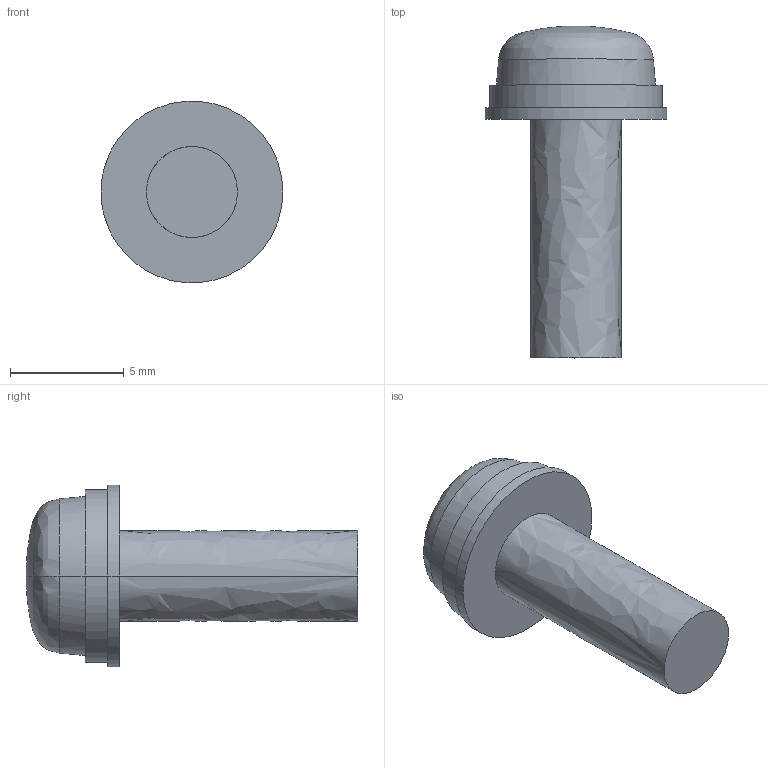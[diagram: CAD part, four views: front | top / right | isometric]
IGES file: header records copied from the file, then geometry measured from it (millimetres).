
Start section:  PTC IGES file: sw-pw-p-na-m4x12-pe.igs
Global section: file name: sw-pw-p-na-m4x12-pe.igs; native system: Pro/ENGINEER by Parametric Technology Corporation; preprocessor: 2010160; author: CV86875; organization: Unknown; date: 20121031.193707; units: millimetre
Bounding box: 8 x 14.6 x 7.98 mm (x, y, z)
Volume: 283.5 mm3; surface area: 304.7 mm2
Topology: 1 solids, 1 shells, 16 faces, 32 edges, 19 vertices
Faces by surface type: bspline 16
